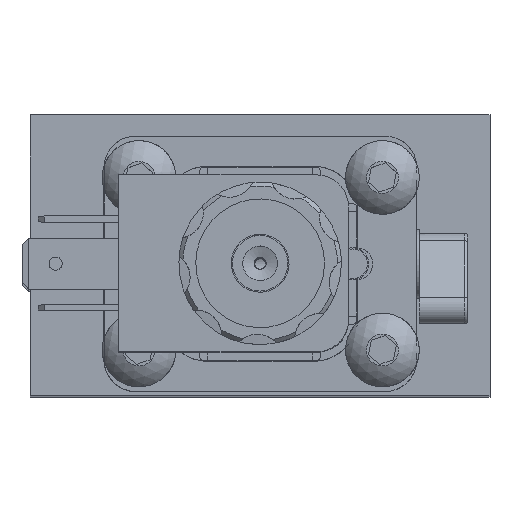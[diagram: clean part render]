
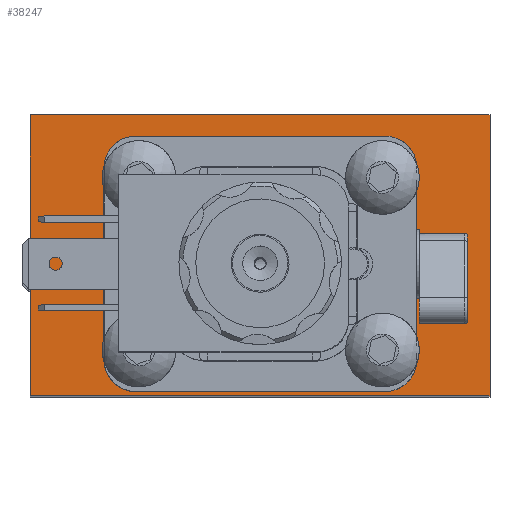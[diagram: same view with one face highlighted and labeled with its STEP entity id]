
A CAD part, top view. The second image highlights one B-rep face of the part: STEP entity #38247.
In plain terms, the highlighted planar face has unit normal (0, 0, 1).
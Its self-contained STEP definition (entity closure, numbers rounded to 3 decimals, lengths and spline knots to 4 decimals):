
#1061=FACE_BOUND('',#6360,.T.);
#2219=PLANE('',#41681);
#4010=FACE_OUTER_BOUND('',#6359,.T.);
#6359=EDGE_LOOP('',(#31257,#31258,#31259,#31260));
#6360=EDGE_LOOP('',(#31261,#31262,#31263,#31264,#31265,#31266,#31267,#31268));
#8227=CIRCLE('',#41243,0.4064);
#8229=CIRCLE('',#41247,0.4064);
#8231=CIRCLE('',#41251,0.4064);
#8233=CIRCLE('',#41255,0.4064);
#10711=LINE('',#60861,#13539);
#10719=LINE('',#60887,#13547);
#10723=LINE('',#60899,#13551);
#10727=LINE('',#60911,#13555);
#10786=LINE('',#61499,#13614);
#10798=LINE('',#61542,#13626);
#10844=LINE('',#62121,#13672);
#11085=LINE('',#63536,#13913);
#13539=VECTOR('',#49321,1.);
#13547=VECTOR('',#49349,1.);
#13551=VECTOR('',#49361,1.);
#13555=VECTOR('',#49373,1.);
#13614=VECTOR('',#49760,1.);
#13626=VECTOR('',#49808,1.);
#13672=VECTOR('',#50048,1.);
#13913=VECTOR('',#50435,1.);
#16570=VERTEX_POINT('',#60857);
#16572=VERTEX_POINT('',#60860);
#16577=VERTEX_POINT('',#60877);
#16580=VERTEX_POINT('',#60884);
#16581=VERTEX_POINT('',#60889);
#16584=VERTEX_POINT('',#60896);
#16585=VERTEX_POINT('',#60901);
#16588=VERTEX_POINT('',#60908);
#16695=VERTEX_POINT('',#61495);
#16697=VERTEX_POINT('',#61498);
#16708=VERTEX_POINT('',#61538);
#16710=VERTEX_POINT('',#61541);
#21070=EDGE_CURVE('',#16572,#16570,#10711,.T.);
#21081=EDGE_CURVE('',#16577,#16572,#8227,.T.);
#21084=EDGE_CURVE('',#16580,#16577,#10719,.T.);
#21087=EDGE_CURVE('',#16581,#16580,#8229,.T.);
#21090=EDGE_CURVE('',#16584,#16581,#10723,.T.);
#21093=EDGE_CURVE('',#16585,#16584,#8231,.T.);
#21096=EDGE_CURVE('',#16588,#16585,#10727,.T.);
#21098=EDGE_CURVE('',#16570,#16588,#8233,.T.);
#21260=EDGE_CURVE('',#16697,#16695,#10786,.T.);
#21281=EDGE_CURVE('',#16710,#16708,#10798,.T.);
#21408=EDGE_CURVE('',#16708,#16697,#10844,.T.);
#21741=EDGE_CURVE('',#16695,#16710,#11085,.T.);
#31257=ORIENTED_EDGE('',*,*,#21260,.T.);
#31258=ORIENTED_EDGE('',*,*,#21741,.T.);
#31259=ORIENTED_EDGE('',*,*,#21281,.T.);
#31260=ORIENTED_EDGE('',*,*,#21408,.T.);
#31261=ORIENTED_EDGE('',*,*,#21098,.T.);
#31262=ORIENTED_EDGE('',*,*,#21096,.T.);
#31263=ORIENTED_EDGE('',*,*,#21093,.T.);
#31264=ORIENTED_EDGE('',*,*,#21090,.T.);
#31265=ORIENTED_EDGE('',*,*,#21087,.T.);
#31266=ORIENTED_EDGE('',*,*,#21084,.T.);
#31267=ORIENTED_EDGE('',*,*,#21081,.T.);
#31268=ORIENTED_EDGE('',*,*,#21070,.T.);
#38247=ADVANCED_FACE('',(#4010,#1061),#2219,.T.);
#41243=AXIS2_PLACEMENT_3D('',#60881,#49343,#49344);
#41247=AXIS2_PLACEMENT_3D('',#60893,#49355,#49356);
#41251=AXIS2_PLACEMENT_3D('',#60905,#49367,#49368);
#41255=AXIS2_PLACEMENT_3D('',#60914,#49378,#49379);
#41681=AXIS2_PLACEMENT_3D('',#64529,#50793,#50794);
#49321=DIRECTION('',(0.,1.,0.));
#49343=DIRECTION('center_axis',(0.,0.,
-1.));
#49344=DIRECTION('ref_axis',(1.,0.,0.));
#49349=DIRECTION('',(-1.,0.,0.));
#49355=DIRECTION('center_axis',(0.,0.,
-1.));
#49356=DIRECTION('ref_axis',(0.,1.,0.));
#49361=DIRECTION('',(0.,-1.,0.));
#49367=DIRECTION('center_axis',(0.,0.,
-1.));
#49368=DIRECTION('ref_axis',(-1.,0.,0.));
#49373=DIRECTION('',(1.,0.,0.));
#49378=DIRECTION('center_axis',(0.,0.,
-1.));
#49379=DIRECTION('ref_axis',(0.,-1.,0.));
#49760=DIRECTION('',(-1.,0.,0.));
#49808=DIRECTION('',(1.,0.,0.));
#50048=DIRECTION('',(0.,1.,0.));
#50435=DIRECTION('',(0.,-1.,0.));
#50793=DIRECTION('center_axis',(0.,0.,1.));
#50794=DIRECTION('ref_axis',(1.,0.,0.));
#60857=CARTESIAN_POINT('',(-1.9444,1.1811,4.7104));
#60860=CARTESIAN_POINT('',(-1.9444,-1.1811,4.7104));
#60861=CARTESIAN_POINT('',(-1.9444,-1.1811,4.7104));
#60877=CARTESIAN_POINT('',(-1.538,-1.5875,4.7104));
#60881=CARTESIAN_POINT('Origin',(-1.538,-1.1811,4.7104));
#60884=CARTESIAN_POINT('',(1.538,-1.5875,4.7104));
#60887=CARTESIAN_POINT('',(1.538,-1.5875,4.7104));
#60889=CARTESIAN_POINT('',(1.9444,-1.1811,4.7104));
#60893=CARTESIAN_POINT('Origin',(1.538,-1.1811,4.7104));
#60896=CARTESIAN_POINT('',(1.9444,1.1811,4.7104));
#60899=CARTESIAN_POINT('',(1.9444,1.1811,4.7104));
#60901=CARTESIAN_POINT('',(1.538,1.5875,4.7104));
#60905=CARTESIAN_POINT('Origin',(1.538,1.1811,4.7104));
#60908=CARTESIAN_POINT('',(-1.538,1.5875,4.7104));
#60911=CARTESIAN_POINT('',(-1.538,1.5875,4.7104));
#60914=CARTESIAN_POINT('Origin',(-1.538,1.1811,4.7104));
#61495=CARTESIAN_POINT('',(-2.8575,1.8567,4.7104));
#61498=CARTESIAN_POINT('',(2.8575,1.8567,4.7104));
#61499=CARTESIAN_POINT('',(2.8575,1.8567,4.7104));
#61538=CARTESIAN_POINT('',(2.8575,-1.6358,4.7104));
#61541=CARTESIAN_POINT('',(-2.8575,-1.6358,4.7104));
#61542=CARTESIAN_POINT('',(2.8575,-1.6358,4.7104));
#62121=CARTESIAN_POINT('',(2.8575,0.,4.7104));
#63536=CARTESIAN_POINT('',(-2.8575,0.,4.7104));
#64529=CARTESIAN_POINT('Origin',(2.8575,0.,4.7104));
